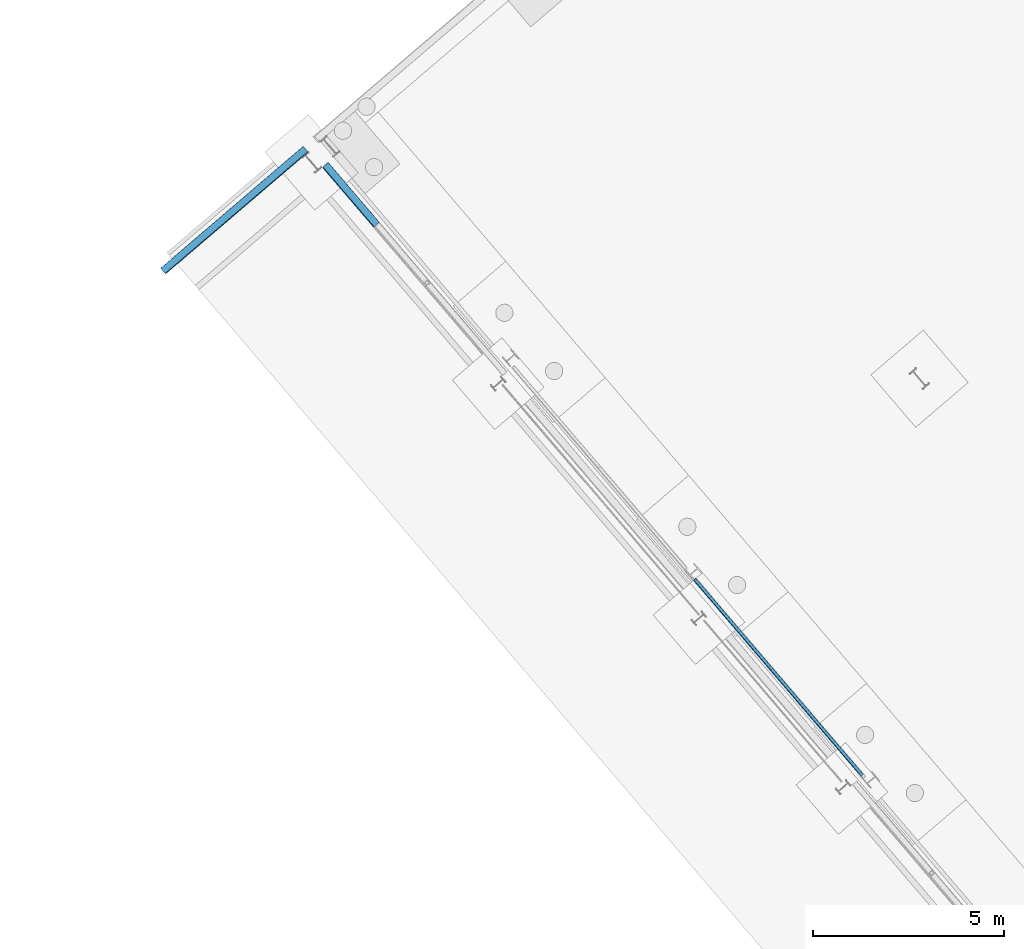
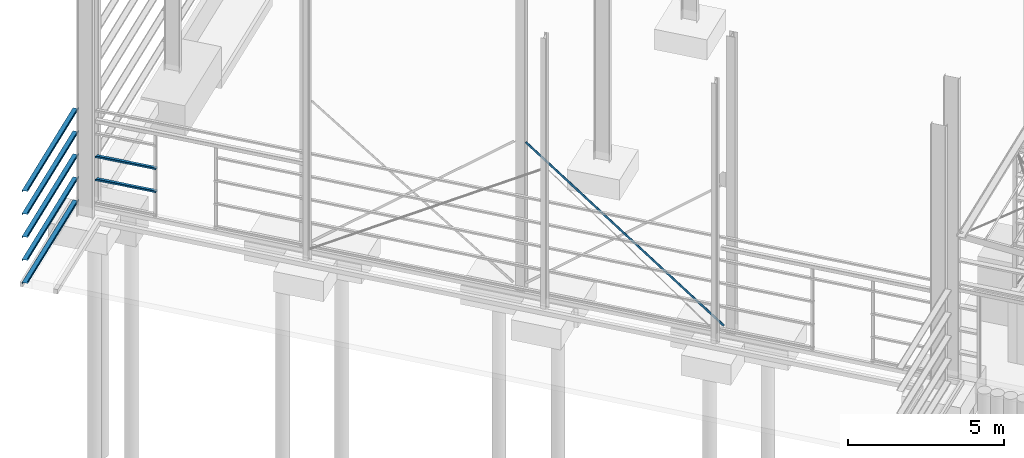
# One storey, part 13 of 41: 8 beams.
"""IFC2X3 building model written with IfcOpenShell, lengths in millimetres."""

from ifc_helpers import new_model, entity, si_unit, converted_unit, derived_unit, direction, frame, frame_2d, origin, place, context, subcontext, project, spatial, polyline, circle_curve, parameter, trimmed, segment, composite_curve, outline, extrude, material, type_object, element, save


model = new_model("IFC2X3")

# Units and contexts
model_context = context("Model", 3, precision=0.01, world=origin(), true_north=direction((6.123031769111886e-17, 1.0)))
body_context = subcontext(model_context, "Body", "Model", "MODEL_VIEW")
ifc_project = project(units=[si_unit("LENGTHUNIT", "METRE", prefix="MILLI"), si_unit("AREAUNIT", "SQUARE_METRE"), si_unit("VOLUMEUNIT", "CUBIC_METRE"), converted_unit("PLANEANGLEUNIT", "DEGREE", entity("IfcRatioMeasure", 0.017453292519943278), si_unit("PLANEANGLEUNIT", "RADIAN"), dimensions=[0, 0, 0, 0, 0, 0, 0]), si_unit("MASSUNIT", "GRAM", prefix="KILO"), derived_unit("MASSDENSITYUNIT", [(si_unit("MASSUNIT", "GRAM", prefix="KILO"), 1), (si_unit("LENGTHUNIT", "METRE"), -3)]), derived_unit("MOMENTOFINERTIAUNIT", [(si_unit("LENGTHUNIT", "METRE"), 4)]), si_unit("TIMEUNIT", "SECOND"), si_unit("FREQUENCYUNIT", "HERTZ"), si_unit("THERMODYNAMICTEMPERATUREUNIT", "DEGREE_CELSIUS"), derived_unit("THERMALTRANSMITTANCEUNIT", [(si_unit("MASSUNIT", "GRAM", prefix="KILO"), 1), (si_unit("THERMODYNAMICTEMPERATUREUNIT", "KELVIN"), -1), (si_unit("TIMEUNIT", "SECOND"), -3)]), derived_unit("VOLUMETRICFLOWRATEUNIT", [(si_unit("LENGTHUNIT", "METRE"), 3), (si_unit("TIMEUNIT", "SECOND"), -1)]), derived_unit("MASSFLOWRATEUNIT", [(si_unit("MASSUNIT", "GRAM", prefix="KILO"), 1), (si_unit("TIMEUNIT", "SECOND"), -1)]), derived_unit("ROTATIONALFREQUENCYUNIT", [(si_unit("TIMEUNIT", "SECOND"), -1)]), si_unit("ELECTRICCURRENTUNIT", "AMPERE"), si_unit("ELECTRICVOLTAGEUNIT", "VOLT"), si_unit("POWERUNIT", "WATT"), si_unit("FORCEUNIT", "NEWTON", prefix="KILO"), si_unit("ILLUMINANCEUNIT", "LUX"), si_unit("LUMINOUSFLUXUNIT", "LUMEN"), si_unit("LUMINOUSINTENSITYUNIT", "CANDELA"), derived_unit("USERDEFINED", [(si_unit("MASSUNIT", "GRAM", prefix="KILO"), -1), (si_unit("LENGTHUNIT", "METRE"), -2), (si_unit("TIMEUNIT", "SECOND"), 3), (si_unit("LUMINOUSFLUXUNIT", "LUMEN"), 1)]), derived_unit("SOUNDPOWERUNIT", [(si_unit("MASSUNIT", "GRAM", prefix="KILO"), 1), (si_unit("LENGTHUNIT", "METRE"), 2), (si_unit("TIMEUNIT", "SECOND"), -3)]), derived_unit("LINEARVELOCITYUNIT", [(si_unit("LENGTHUNIT", "METRE"), 1), (si_unit("TIMEUNIT", "SECOND"), -1)]), si_unit("PRESSUREUNIT", "PASCAL"), derived_unit("USERDEFINED", [(si_unit("LENGTHUNIT", "METRE"), -2), (si_unit("MASSUNIT", "GRAM", prefix="KILO"), 1), (si_unit("TIMEUNIT", "SECOND"), -2)]), derived_unit("LINEARFORCEUNIT", [(si_unit("MASSUNIT", "GRAM", prefix="KILO"), 1), (si_unit("LENGTHUNIT", "METRE"), 1), (si_unit("TIMEUNIT", "SECOND"), -2), (si_unit("LENGTHUNIT", "METRE"), -1)]), derived_unit("PLANARFORCEUNIT", [(si_unit("MASSUNIT", "GRAM", prefix="KILO"), 1), (si_unit("LENGTHUNIT", "METRE"), 1), (si_unit("TIMEUNIT", "SECOND"), -2), (si_unit("LENGTHUNIT", "METRE"), -2)])], contexts=[model_context])

# Site, building, storey
site_placement = place(None, frame((962.4174930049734, -6014.433753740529, 0.0), z_axis=(0.0, 0.0, 1.0), x_axis=(0.7601792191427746, 0.649713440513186, 0.0)))
site = spatial("IfcSite", under=ifc_project, at=site_placement, Name="Default", CompositionType="ELEMENT")
building_placement = place(site_placement, origin())
building = spatial("IfcBuilding", under=site, at=building_placement, CompositionType="ELEMENT")
storey_placement = place(building_placement, origin())
storey = spatial("IfcBuildingStorey", under=building, at=storey_placement, Name="Datum", CompositionType="ELEMENT", Elevation=0.0)

# Beams
ifc_material = material(Name="Metal - Steel - 300 MPa")
beam_type_1 = type_object("IfcBeamType", Name="ADSK_AU_EA-Equal Angles (AS 3679_1):90x90x10EA", PredefinedType="NOTDEFINED")
beam_1_placement = place(storey_placement, frame((154449.66020470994, -11244.435616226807, 5858.257195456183), z_axis=(0.0, -0.6399432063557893, 0.7684222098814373), x_axis=(0.0, -0.7684222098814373, -0.6399432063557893)))
element("IfcBeam", 1, at=beam_1_placement, inside=storey, type_object=beam_type_1, material=ifc_material, Name="ADSK_AU_EA-Equal Angles (AS 3679_1):90x90x10EA", ObjectType="ADSK_AU_EA-Equal Angles (AS 3679_1):90x90x10EA", context=body_context, shape_type="SweptSolid", body=[
    extrude(outline(composite_curve([segment(polyline([(-55.77777777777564, -34.22222222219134), (34.222222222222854, -34.22222222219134)]), True, "CONTINUOUS"), segment(polyline([(34.222222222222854, -34.22222222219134), (34.22222222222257, 55.77777777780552)]), True, "CONTINUOUS"), segment(polyline([(34.22222222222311, 55.77777777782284), (29.222222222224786, 55.77777777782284)]), True, "CONTINUOUS"), segment(trimmed(circle_curve(frame_2d((29.222222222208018, 50.77777777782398), x_axis=(0.0, 1.0)), 4.999999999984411), [parameter(0.0)], [parameter(90.0000000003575)], True, "PARAMETER"), True, "CONTINUOUS"), segment(polyline([(24.222222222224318, 50.777777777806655), (24.222222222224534, -16.222222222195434)]), True, "CONTINUOUS"), segment(trimmed(circle_curve(frame_2d((16.222222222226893, -16.22222222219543), x_axis=(1.0, 0.0)), 7.999999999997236), [parameter(269.99999999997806)], [parameter(0.0)], True, "PARAMETER"), False, "CONTINUOUS"), segment(polyline([(16.222222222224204, -24.22222222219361), (-50.777777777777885, -24.222222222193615)]), True, "CONTINUOUS"), segment(trimmed(circle_curve(frame_2d((-50.7777777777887, -29.22222222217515), x_axis=(0.0, 1.0)), 4.999999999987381), [parameter(0.0)], [parameter(90.0000000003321)], True, "PARAMETER"), True, "CONTINUOUS"), segment(polyline([(-55.777777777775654, -29.222222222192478), (-55.77777777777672, -34.22222222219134)]), True, "CONTINUOUS")], self_intersect=False)), frame((258.19999999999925, 8.522222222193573, -55.777777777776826), z_axis=(1.0, 0.0, 0.0), x_axis=(0.0, 0.0, -1.0)), (0.0, 0.0, 1.0), 8761.800000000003),
])
beam_type_2 = type_object("IfcBeamType", Name="ADSK_UK_Light Gauge-Zeds-Purlin:Metsec-202Z14", PredefinedType="NOTDEFINED")
beam_2_placement = place(storey_placement, frame((154043.43877903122, 3650.5219178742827, 3700.0), z_axis=(0.0, 0.0, 1.0), x_axis=(-1.0, 0.0, 0.0)))
element("IfcBeam", 2, at=beam_2_placement, inside=storey, type_object=beam_type_2, material=ifc_material, Name="ADSK_UK_Light Gauge-Zeds-Purlin:Metsec-202Z14", ObjectType="ADSK_UK_Light Gauge-Zeds-Purlin:Metsec-202Z14", context=body_context, shape_type="SweptSolid", body=[
    extrude(outline(composite_curve([segment(polyline([(3.5999999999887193, -101.20000000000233), (58.0, -101.20000000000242)]), True, "CONTINUOUS"), segment(trimmed(circle_curve(frame_2d((58.0, -98.40000000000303), x_axis=(0.0, -1.0)), 2.7999999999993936), [parameter(0.0)], [parameter(90.00000000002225)], True, "PARAMETER"), True, "CONTINUOUS"), segment(polyline([(60.7999999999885, -98.4000000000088), (60.799999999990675, -80.20000000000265)]), True, "CONTINUOUS"), segment(polyline([(60.799999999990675, -80.20000000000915), (59.39999999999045, -80.20000000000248)]), True, "CONTINUOUS"), segment(polyline([(59.39999999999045, -80.20000000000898), (59.399999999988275, -98.40000000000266)]), True, "CONTINUOUS"), segment(trimmed(circle_curve(frame_2d((58.0, -98.40000000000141), x_axis=(1.0, 0.0)), 1.400000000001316), [parameter(270.00000000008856)], [parameter(0.0)], True, "PARAMETER"), False, "CONTINUOUS"), segment(polyline([(58.0, -99.80000000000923), (3.599999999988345, -99.79999999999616)]), True, "CONTINUOUS"), segment(trimmed(circle_curve(frame_2d((3.5999999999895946, -98.39999999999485), x_axis=(0.0, -1.0)), 1.4000000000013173), [parameter(270.00000000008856)], [parameter(0.0)], True, "PARAMETER"), False, "CONTINUOUS"), segment(polyline([(2.199999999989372, -98.40000000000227), (2.2000000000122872, 98.0)]), True, "CONTINUOUS"), segment(trimmed(circle_curve(frame_2d((-0.5999999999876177, 98.0), x_axis=(1.0, 0.0)), 2.7999999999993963), [parameter(0.0)], [parameter(90.00000000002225)], True, "PARAMETER"), True, "CONTINUOUS"), segment(polyline([(-0.5999999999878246, 100.79999999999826), (-60.0, 100.80000000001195)]), True, "CONTINUOUS"), segment(trimmed(circle_curve(frame_2d((-60.0, 98.0), x_axis=(0.0, 1.0)), 2.7999999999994), [parameter(0.0)], [parameter(90.00000000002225)], True, "PARAMETER"), True, "CONTINUOUS"), segment(polyline([(-62.7999999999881, 98.0), (-62.799999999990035, 81.80000000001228)]), True, "CONTINUOUS"), segment(polyline([(-62.799999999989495, 81.80000000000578), (-61.39999999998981, 81.8000000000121)]), True, "CONTINUOUS"), segment(polyline([(-61.39999999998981, 81.80000000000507), (-61.39999999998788, 98.0)]), True, "CONTINUOUS"), segment(trimmed(circle_curve(frame_2d((-60.0, 98.0), x_axis=(-1.0, 0.0)), 1.4000000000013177), [parameter(270.00000000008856)], [parameter(0.0)], True, "PARAMETER"), False, "CONTINUOUS"), segment(polyline([(-60.0, 99.40000000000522), (-0.5999999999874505, 99.40000000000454)]), True, "CONTINUOUS"), segment(trimmed(circle_curve(frame_2d((-0.5999999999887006, 98.0), x_axis=(0.0, 1.0)), 1.4000000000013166), [parameter(270.00000000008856)], [parameter(0.0)], True, "PARAMETER"), False, "CONTINUOUS"), segment(polyline([(0.8000000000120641, 98.0), (0.7999999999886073, -98.39999999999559)]), True, "CONTINUOUS"), segment(trimmed(circle_curve(frame_2d((3.599999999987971, -98.39999999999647), x_axis=(-1.0, 0.0)), 2.7999999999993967), [parameter(0.0)], [parameter(90.00000000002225)], True, "PARAMETER"), True, "CONTINUOUS")], self_intersect=False)), frame((-1.0, -100.80000000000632, 0.7000000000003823), z_axis=(1.0, 0.0, 0.0), x_axis=(0.0, 0.0, -1.0)), (0.0, 0.0, 1.0), 4900.999999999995),
])
beam_3_placement = place(storey_placement, frame((154043.43877903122, 3650.5219178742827, 2800.0), z_axis=(0.0, 0.0, 1.0), x_axis=(-1.0, 0.0, 0.0)))
element("IfcBeam", 3, at=beam_3_placement, inside=storey, type_object=beam_type_2, material=ifc_material, Name="ADSK_UK_Light Gauge-Zeds-Purlin:Metsec-202Z14", ObjectType="ADSK_UK_Light Gauge-Zeds-Purlin:Metsec-202Z14", context=body_context, shape_type="SweptSolid", body=[
    extrude(outline(composite_curve([segment(polyline([(3.5999999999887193, -101.20000000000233), (58.0, -101.20000000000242)]), True, "CONTINUOUS"), segment(trimmed(circle_curve(frame_2d((58.0, -98.40000000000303), x_axis=(0.0, -1.0)), 2.7999999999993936), [parameter(0.0)], [parameter(90.00000000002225)], True, "PARAMETER"), True, "CONTINUOUS"), segment(polyline([(60.7999999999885, -98.4000000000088), (60.799999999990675, -80.20000000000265)]), True, "CONTINUOUS"), segment(polyline([(60.799999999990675, -80.20000000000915), (59.39999999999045, -80.20000000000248)]), True, "CONTINUOUS"), segment(polyline([(59.39999999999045, -80.20000000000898), (59.399999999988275, -98.40000000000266)]), True, "CONTINUOUS"), segment(trimmed(circle_curve(frame_2d((58.0, -98.40000000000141), x_axis=(1.0, 0.0)), 1.400000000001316), [parameter(270.00000000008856)], [parameter(0.0)], True, "PARAMETER"), False, "CONTINUOUS"), segment(polyline([(58.0, -99.80000000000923), (3.599999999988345, -99.79999999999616)]), True, "CONTINUOUS"), segment(trimmed(circle_curve(frame_2d((3.5999999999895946, -98.39999999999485), x_axis=(0.0, -1.0)), 1.4000000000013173), [parameter(270.00000000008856)], [parameter(0.0)], True, "PARAMETER"), False, "CONTINUOUS"), segment(polyline([(2.199999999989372, -98.40000000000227), (2.2000000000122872, 98.0)]), True, "CONTINUOUS"), segment(trimmed(circle_curve(frame_2d((-0.5999999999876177, 98.0), x_axis=(1.0, 0.0)), 2.7999999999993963), [parameter(0.0)], [parameter(90.00000000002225)], True, "PARAMETER"), True, "CONTINUOUS"), segment(polyline([(-0.5999999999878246, 100.79999999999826), (-60.0, 100.80000000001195)]), True, "CONTINUOUS"), segment(trimmed(circle_curve(frame_2d((-60.0, 98.0), x_axis=(0.0, 1.0)), 2.7999999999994), [parameter(0.0)], [parameter(90.00000000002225)], True, "PARAMETER"), True, "CONTINUOUS"), segment(polyline([(-62.7999999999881, 98.0), (-62.799999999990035, 81.80000000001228)]), True, "CONTINUOUS"), segment(polyline([(-62.799999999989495, 81.80000000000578), (-61.39999999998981, 81.8000000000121)]), True, "CONTINUOUS"), segment(polyline([(-61.39999999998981, 81.80000000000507), (-61.39999999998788, 98.0)]), True, "CONTINUOUS"), segment(trimmed(circle_curve(frame_2d((-60.0, 98.0), x_axis=(-1.0, 0.0)), 1.4000000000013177), [parameter(270.00000000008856)], [parameter(0.0)], True, "PARAMETER"), False, "CONTINUOUS"), segment(polyline([(-60.0, 99.40000000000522), (-0.5999999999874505, 99.40000000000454)]), True, "CONTINUOUS"), segment(trimmed(circle_curve(frame_2d((-0.5999999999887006, 98.0), x_axis=(0.0, 1.0)), 1.4000000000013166), [parameter(270.00000000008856)], [parameter(0.0)], True, "PARAMETER"), False, "CONTINUOUS"), segment(polyline([(0.8000000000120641, 98.0), (0.7999999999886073, -98.39999999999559)]), True, "CONTINUOUS"), segment(trimmed(circle_curve(frame_2d((3.599999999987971, -98.39999999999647), x_axis=(-1.0, 0.0)), 2.7999999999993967), [parameter(0.0)], [parameter(90.00000000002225)], True, "PARAMETER"), True, "CONTINUOUS")], self_intersect=False)), frame((-1.0, -100.80000000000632, 0.7000000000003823), z_axis=(1.0, 0.0, 0.0), x_axis=(0.0, 0.0, -1.0)), (0.0, 0.0, 1.0), 4900.999999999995),
])
beam_4_placement = place(storey_placement, frame((154043.43877903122, 3650.5219178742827, 1900.0), z_axis=(0.0, 0.0, 1.0), x_axis=(-1.0, 0.0, 0.0)))
element("IfcBeam", 4, at=beam_4_placement, inside=storey, type_object=beam_type_2, material=ifc_material, Name="ADSK_UK_Light Gauge-Zeds-Purlin:Metsec-202Z14", ObjectType="ADSK_UK_Light Gauge-Zeds-Purlin:Metsec-202Z14", context=body_context, shape_type="SweptSolid", body=[
    extrude(outline(composite_curve([segment(polyline([(3.5999999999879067, -101.20000000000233), (58.0, -101.20000000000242)]), True, "CONTINUOUS"), segment(trimmed(circle_curve(frame_2d((58.0, -98.40000000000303), x_axis=(0.0, -1.0)), 2.799999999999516), [parameter(0.0)], [parameter(90.00000000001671)], True, "PARAMETER"), True, "CONTINUOUS"), segment(polyline([(60.79999999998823, -98.4000000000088), (60.799999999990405, -80.20000000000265)]), True, "CONTINUOUS"), segment(polyline([(60.799999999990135, -80.20000000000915), (59.39999999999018, -80.20000000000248)]), True, "CONTINUOUS"), segment(polyline([(59.39999999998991, -80.20000000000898), (59.399999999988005, -98.40000000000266)]), True, "CONTINUOUS"), segment(trimmed(circle_curve(frame_2d((58.0, -98.40000000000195), x_axis=(1.0, 0.0)), 1.400000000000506), [parameter(270.0000000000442)], [parameter(0.0)], True, "PARAMETER"), False, "CONTINUOUS"), segment(polyline([(58.0, -99.80000000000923), (3.599999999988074, -99.79999999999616)]), True, "CONTINUOUS"), segment(trimmed(circle_curve(frame_2d((3.599999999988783, -98.39999999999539), x_axis=(0.0, -1.0)), 1.4000000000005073), [parameter(270.0000000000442)], [parameter(0.0)], True, "PARAMETER"), False, "CONTINUOUS"), segment(polyline([(2.199999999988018, -98.40000000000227), (2.200000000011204, 98.0)]), True, "CONTINUOUS"), segment(trimmed(circle_curve(frame_2d((-0.5999999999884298, 98.0), x_axis=(1.0, 0.0)), 2.799999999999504), [parameter(0.0)], [parameter(90.00000000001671)], True, "PARAMETER"), True, "CONTINUOUS"), segment(polyline([(-0.5999999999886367, 100.79999999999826), (-60.0, 100.80000000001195)]), True, "CONTINUOUS"), segment(trimmed(circle_curve(frame_2d((-60.0, 98.0), x_axis=(0.0, 1.0)), 2.7999999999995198), [parameter(0.0)], [parameter(90.00000000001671)], True, "PARAMETER"), True, "CONTINUOUS"), segment(polyline([(-62.79999999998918, 98.0), (-62.799999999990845, 81.80000000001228)]), True, "CONTINUOUS"), segment(polyline([(-62.799999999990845, 81.80000000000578), (-61.39999999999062, 81.8000000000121)]), True, "CONTINUOUS"), segment(polyline([(-61.39999999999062, 81.80000000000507), (-61.39999999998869, 98.0)]), True, "CONTINUOUS"), segment(trimmed(circle_curve(frame_2d((-60.0, 98.0), x_axis=(-1.0, 0.0)), 1.4000000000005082), [parameter(270.0000000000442)], [parameter(0.0)], True, "PARAMETER"), False, "CONTINUOUS"), segment(polyline([(-60.0, 99.40000000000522), (-0.5999999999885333, 99.40000000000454)]), True, "CONTINUOUS"), segment(trimmed(circle_curve(frame_2d((-0.599999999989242, 98.0), x_axis=(0.0, 1.0)), 1.4000000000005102), [parameter(270.0000000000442)], [parameter(0.0)], True, "PARAMETER"), False, "CONTINUOUS"), segment(polyline([(0.8000000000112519, 98.0), (0.7999999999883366, -98.39999999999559)]), True, "CONTINUOUS"), segment(trimmed(circle_curve(frame_2d((3.599999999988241, -98.39999999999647), x_axis=(-1.0, 0.0)), 2.7999999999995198), [parameter(0.0)], [parameter(90.00000000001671)], True, "PARAMETER"), True, "CONTINUOUS")], self_intersect=False)), frame((-1.0, -100.80000000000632, 0.6999999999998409), z_axis=(1.0, 0.0, 0.0), x_axis=(0.0, 0.0, -1.0)), (0.0, 0.0, 1.0), 4900.999999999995),
])
beam_5_placement = place(storey_placement, frame((154043.43877903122, 3650.5219178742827, 1000.0), z_axis=(0.0, 0.0, 1.0), x_axis=(-1.0, 0.0, 0.0)))
element("IfcBeam", 5, at=beam_5_placement, inside=storey, type_object=beam_type_2, material=ifc_material, Name="ADSK_UK_Light Gauge-Zeds-Purlin:Metsec-202Z14", ObjectType="ADSK_UK_Light Gauge-Zeds-Purlin:Metsec-202Z14", context=body_context, shape_type="SweptSolid", body=[
    extrude(outline(composite_curve([segment(polyline([(3.5999999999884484, -101.20000000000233), (58.0, -101.20000000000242)]), True, "CONTINUOUS"), segment(trimmed(circle_curve(frame_2d((58.0, -98.40000000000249), x_axis=(0.0, -1.0)), 2.7999999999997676), [parameter(0.0)], [parameter(90.00000000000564)], True, "PARAMETER"), True, "CONTINUOUS"), segment(polyline([(60.799999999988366, -98.4000000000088), (60.79999999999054, -80.20000000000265)]), True, "CONTINUOUS"), segment(polyline([(60.79999999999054, -80.20000000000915), (59.399999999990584, -80.20000000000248)]), True, "CONTINUOUS"), segment(polyline([(59.399999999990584, -80.20000000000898), (59.39999999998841, -98.40000000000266)]), True, "CONTINUOUS"), segment(trimmed(circle_curve(frame_2d((58.0, -98.40000000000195), x_axis=(1.0, 0.0)), 1.4000000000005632), [parameter(270.0000000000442)], [parameter(0.0)], True, "PARAMETER"), False, "CONTINUOUS"), segment(polyline([(58.0, -99.80000000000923), (3.599999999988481, -99.79999999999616)]), True, "CONTINUOUS"), segment(trimmed(circle_curve(frame_2d((3.5999999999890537, -98.39999999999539), x_axis=(0.0, -1.0)), 1.400000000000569), [parameter(270.0000000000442)], [parameter(0.0)], True, "PARAMETER"), False, "CONTINUOUS"), segment(polyline([(2.199999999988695, -98.40000000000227), (2.2000000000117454, 98.0)]), True, "CONTINUOUS"), segment(trimmed(circle_curve(frame_2d((-0.5999999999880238, 98.0), x_axis=(1.0, 0.0)), 2.7999999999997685), [parameter(0.0)], [parameter(90.00000000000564)], True, "PARAMETER"), True, "CONTINUOUS"), segment(polyline([(-0.5999999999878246, 100.79999999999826), (-60.0, 100.80000000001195)]), True, "CONTINUOUS"), segment(trimmed(circle_curve(frame_2d((-60.0, 98.0), x_axis=(0.0, 1.0)), 2.799999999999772), [parameter(0.0)], [parameter(90.00000000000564)], True, "PARAMETER"), True, "CONTINUOUS"), segment(polyline([(-62.79999999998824, 98.0), (-62.79999999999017, 81.80000000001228)]), True, "CONTINUOUS"), segment(polyline([(-62.79999999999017, 81.80000000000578), (-61.399999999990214, 81.8000000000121)]), True, "CONTINUOUS"), segment(polyline([(-61.399999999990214, 81.80000000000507), (-61.39999999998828, 98.0)]), True, "CONTINUOUS"), segment(trimmed(circle_curve(frame_2d((-60.0, 98.0), x_axis=(-1.0, 0.0)), 1.4000000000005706), [parameter(270.0000000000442)], [parameter(0.0)], True, "PARAMETER"), False, "CONTINUOUS"), segment(polyline([(-60.0, 99.40000000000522), (-0.5999999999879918, 99.40000000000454)]), True, "CONTINUOUS"), segment(trimmed(circle_curve(frame_2d((-0.5999999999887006, 98.0), x_axis=(0.0, 1.0)), 1.4000000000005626), [parameter(270.0000000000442)], [parameter(0.0)], True, "PARAMETER"), False, "CONTINUOUS"), segment(polyline([(0.8000000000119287, 98.0), (0.7999999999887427, -98.39999999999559)]), True, "CONTINUOUS"), segment(trimmed(circle_curve(frame_2d((3.599999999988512, -98.39999999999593), x_axis=(-1.0, 0.0)), 2.799999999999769), [parameter(0.0)], [parameter(90.00000000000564)], True, "PARAMETER"), True, "CONTINUOUS")], self_intersect=False)), frame((-1.0, -100.80000000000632, 0.7000000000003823), z_axis=(1.0, 0.0, 0.0), x_axis=(0.0, 0.0, -1.0)), (0.0, 0.0, 1.0), 4900.999999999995),
])
beam_6_placement = place(storey_placement, frame((154043.43877903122, 3650.5219178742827, 100.0), z_axis=(0.0, 0.0, 1.0), x_axis=(-1.0, 0.0, 0.0)))
element("IfcBeam", 6, at=beam_6_placement, inside=storey, type_object=beam_type_2, material=ifc_material, Name="ADSK_UK_Light Gauge-Zeds-Purlin:Metsec-202Z14", ObjectType="ADSK_UK_Light Gauge-Zeds-Purlin:Metsec-202Z14", context=body_context, shape_type="SweptSolid", body=[
    extrude(outline(composite_curve([segment(polyline([(3.599999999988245, -101.20000000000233), (58.0, -101.20000000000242)]), True, "CONTINUOUS"), segment(trimmed(circle_curve(frame_2d((58.0, -98.40000000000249), x_axis=(0.0, -1.0)), 2.7999999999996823), [parameter(0.0)], [parameter(90.00000000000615)], True, "PARAMETER"), True, "CONTINUOUS"), segment(polyline([(60.79999999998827, -98.4000000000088), (60.79999999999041, -80.20000000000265)]), True, "CONTINUOUS"), segment(polyline([(60.79999999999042, -80.20000000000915), (59.39999999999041, -80.20000000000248)]), True, "CONTINUOUS"), segment(polyline([(59.39999999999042, -80.20000000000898), (59.39999999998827, -98.40000000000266)]), True, "CONTINUOUS"), segment(trimmed(circle_curve(frame_2d((58.0, -98.40000000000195), x_axis=(1.0, 0.0)), 1.400000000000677), [parameter(270.00000000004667)], [parameter(0.0)], True, "PARAMETER"), False, "CONTINUOUS"), segment(polyline([(58.0, -99.80000000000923), (3.5999999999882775, -99.79999999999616)]), True, "CONTINUOUS"), segment(trimmed(circle_curve(frame_2d((3.59999999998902, -98.39999999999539), x_axis=(0.0, -1.0)), 1.4000000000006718), [parameter(270.00000000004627)], [parameter(0.0)], True, "PARAMETER"), False, "CONTINUOUS"), segment(polyline([(2.1999999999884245, -98.40000000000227), (2.200000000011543, 98.0)]), True, "CONTINUOUS"), segment(trimmed(circle_curve(frame_2d((-0.5999999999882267, 98.0), x_axis=(1.0, 0.0)), 2.79999999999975), [parameter(0.0)], [parameter(90.00000000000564)], True, "PARAMETER"), True, "CONTINUOUS"), segment(polyline([(-0.5999999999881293, 100.79999999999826), (-60.0, 100.80000000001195)]), True, "CONTINUOUS"), segment(trimmed(circle_curve(frame_2d((-60.0, 98.0), x_axis=(0.0, 1.0)), 2.799999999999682), [parameter(0.0)], [parameter(90.00000000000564)], True, "PARAMETER"), True, "CONTINUOUS"), segment(polyline([(-62.79999999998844, 98.0), (-62.79999999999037, 81.80000000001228)]), True, "CONTINUOUS"), segment(polyline([(-62.799999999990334, 81.80000000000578), (-61.39999999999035, 81.8000000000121)]), True, "CONTINUOUS"), segment(polyline([(-61.39999999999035, 81.80000000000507), (-61.39999999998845, 98.0)]), True, "CONTINUOUS"), segment(trimmed(circle_curve(frame_2d((-60.0, 98.0), x_axis=(-1.0, 0.0)), 1.400000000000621), [parameter(270.0000000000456)], [parameter(0.0)], True, "PARAMETER"), False, "CONTINUOUS"), segment(polyline([(-60.0, 99.40000000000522), (-0.5999999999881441, 99.40000000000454)]), True, "CONTINUOUS"), segment(trimmed(circle_curve(frame_2d((-0.5999999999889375, 98.0), x_axis=(0.0, 1.0)), 1.400000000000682), [parameter(270.0000000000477)], [parameter(0.0)], True, "PARAMETER"), False, "CONTINUOUS"), segment(polyline([(0.8000000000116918, 98.0), (0.7999999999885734, -98.39999999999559)]), True, "CONTINUOUS"), segment(trimmed(circle_curve(frame_2d((3.599999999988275, -98.39999999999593), x_axis=(-1.0, 0.0)), 2.7999999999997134), [parameter(0.0)], [parameter(90.00000000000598)], True, "PARAMETER"), True, "CONTINUOUS")], self_intersect=False)), frame((-1.0, -100.80000000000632, 0.7000000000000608), z_axis=(1.0, 0.0, 0.0), x_axis=(0.0, 0.0, -1.0)), (0.0, 0.0, 1.0), 4900.999999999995),
])
beam_7_placement = place(storey_placement, frame((154066.46020470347, 1172.5719178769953, 1900.0), z_axis=(0.0, 0.0, 1.0), x_axis=(0.0, 1.0, 0.0)))
element("IfcBeam", 7, at=beam_7_placement, inside=storey, type_object=beam_type_2, material=ifc_material, Name="ADSK_UK_Light Gauge-Zeds-Purlin:Metsec-202Z14", ObjectType="ADSK_UK_Light Gauge-Zeds-Purlin:Metsec-202Z14", context=body_context, shape_type="SweptSolid", body=[
    extrude(outline(composite_curve([segment(polyline([(3.6000000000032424, -101.19999999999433), (58.0, -101.19999999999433)]), True, "CONTINUOUS"), segment(trimmed(circle_curve(frame_2d((58.0, -98.39999999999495), x_axis=(0.0, -1.0)), 2.8000000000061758), [parameter(0.0)], [parameter(89.99999999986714)], True, "PARAMETER"), True, "CONTINUOUS"), segment(polyline([(60.80000000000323, -98.40000000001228), (60.799999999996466, -80.19999999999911)]), True, "CONTINUOUS"), segment(polyline([(60.80000000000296, -80.19999999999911), (59.39999999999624, -80.19999999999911)]), True, "CONTINUOUS"), segment(polyline([(59.40000000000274, -80.19999999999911), (59.39999999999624, -98.39999999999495)]), True, "CONTINUOUS"), segment(trimmed(circle_curve(frame_2d((58.0, -98.39999999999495), x_axis=(1.0, 0.0)), 1.3999999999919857), [parameter(269.9999999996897)], [parameter(0.0)], True, "PARAMETER"), False, "CONTINUOUS"), segment(polyline([(58.0, -99.79999999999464), (3.5999999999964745, -99.79999999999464)]), True, "CONTINUOUS"), segment(trimmed(circle_curve(frame_2d((3.5999999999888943, -98.39999999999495), x_axis=(0.0, -1.0)), 1.3999999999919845), [parameter(269.9999999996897)], [parameter(0.0)], True, "PARAMETER"), False, "CONTINUOUS"), segment(polyline([(2.200000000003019, -98.39999999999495), (2.1999999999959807, 98.0)]), True, "CONTINUOUS"), segment(trimmed(circle_curve(frame_2d((-0.6000000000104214, 98.0), x_axis=(1.0, 0.0)), 2.8000000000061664), [parameter(0.0)], [parameter(89.99999999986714)], True, "PARAMETER"), True, "CONTINUOUS"), segment(polyline([(-0.5999999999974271, 100.80000000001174), (-60.0, 100.80000000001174)]), True, "CONTINUOUS"), segment(trimmed(circle_curve(frame_2d((-60.0, 98.0), x_axis=(0.0, 1.0)), 2.800000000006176), [parameter(0.0)], [parameter(89.99999999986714)], True, "PARAMETER"), True, "CONTINUOUS"), segment(polyline([(-62.79999999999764, 98.0), (-62.80000000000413, 81.80000000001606)]), True, "CONTINUOUS"), segment(polyline([(-62.79999999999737, 81.80000000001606), (-61.40000000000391, 81.80000000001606)]), True, "CONTINUOUS"), segment(polyline([(-61.39999999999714, 81.79999999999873), (-61.40000000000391, 98.0)]), True, "CONTINUOUS"), segment(trimmed(circle_curve(frame_2d((-60.0, 98.0), x_axis=(-1.0, 0.0)), 1.3999999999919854), [parameter(269.9999999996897)], [parameter(0.0)], True, "PARAMETER"), False, "CONTINUOUS"), segment(polyline([(-60.0, 99.40000000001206), (-0.6000000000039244, 99.40000000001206)]), True, "CONTINUOUS"), segment(trimmed(circle_curve(frame_2d((-0.5999999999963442, 98.0), x_axis=(0.0, 1.0)), 1.399999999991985), [parameter(269.9999999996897)], [parameter(0.0)], True, "PARAMETER"), False, "CONTINUOUS"), segment(polyline([(0.800000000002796, 98.0), (0.7999999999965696, -98.39999999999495)]), True, "CONTINUOUS"), segment(trimmed(circle_curve(frame_2d((3.6000000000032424, -98.39999999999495), x_axis=(-1.0, 0.0)), 2.8000000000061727), [parameter(0.0)], [parameter(89.99999999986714)], True, "PARAMETER"), True, "CONTINUOUS")], self_intersect=False)), frame((-121.80547755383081, -100.80000000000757, 0.699999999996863), z_axis=(1.0, 0.0, 0.0), x_axis=(0.0, 0.0, -1.0)), (0.0, 0.0, 1.0), 2053.8054775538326),
])
beam_8_placement = place(storey_placement, frame((154066.46020470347, 1172.571917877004, 1000.0), z_axis=(0.0, 0.0, 1.0), x_axis=(0.0, 1.0, 0.0)))
element("IfcBeam", 8, at=beam_8_placement, inside=storey, type_object=beam_type_2, material=ifc_material, Name="ADSK_UK_Light Gauge-Zeds-Purlin:Metsec-202Z14", ObjectType="ADSK_UK_Light Gauge-Zeds-Purlin:Metsec-202Z14", context=body_context, shape_type="SweptSolid", body=[
    extrude(outline(composite_curve([segment(polyline([(3.6000000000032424, -101.19999999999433), (58.0, -101.19999999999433)]), True, "CONTINUOUS"), segment(trimmed(circle_curve(frame_2d((58.0, -98.39999999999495), x_axis=(0.0, -1.0)), 2.800000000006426), [parameter(0.0)], [parameter(89.99999999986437)], True, "PARAMETER"), True, "CONTINUOUS"), segment(polyline([(60.800000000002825, -98.40000000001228), (60.799999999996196, -80.19999999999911)]), True, "CONTINUOUS"), segment(polyline([(60.800000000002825, -80.19999999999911), (59.39999999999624, -80.19999999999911)]), True, "CONTINUOUS"), segment(polyline([(59.400000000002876, -80.19999999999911), (59.39999999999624, -98.39999999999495)]), True, "CONTINUOUS"), segment(trimmed(circle_curve(frame_2d((58.0, -98.39999999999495), x_axis=(1.0, 0.0)), 1.399999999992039), [parameter(269.9999999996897)], [parameter(0.0)], True, "PARAMETER"), False, "CONTINUOUS"), segment(polyline([(58.0, -99.79999999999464), (3.5999999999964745, -99.79999999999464)]), True, "CONTINUOUS"), segment(trimmed(circle_curve(frame_2d((3.599999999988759, -98.39999999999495), x_axis=(0.0, -1.0)), 1.399999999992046), [parameter(269.9999999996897)], [parameter(0.0)], True, "PARAMETER"), False, "CONTINUOUS"), segment(polyline([(2.2000000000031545, -98.39999999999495), (2.1999999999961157, 98.0)]), True, "CONTINUOUS"), segment(trimmed(circle_curve(frame_2d((-0.6000000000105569, 98.0), x_axis=(1.0, 0.0)), 2.8000000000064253), [parameter(0.0)], [parameter(89.99999999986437)], True, "PARAMETER"), True, "CONTINUOUS"), segment(polyline([(-0.5999999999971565, 100.80000000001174), (-60.0, 100.80000000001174)]), True, "CONTINUOUS"), segment(trimmed(circle_curve(frame_2d((-60.0, 98.0), x_axis=(0.0, 1.0)), 2.8000000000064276), [parameter(0.0)], [parameter(89.99999999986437)], True, "PARAMETER"), True, "CONTINUOUS"), segment(polyline([(-62.799999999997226, 98.0), (-62.80000000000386, 81.80000000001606)]), True, "CONTINUOUS"), segment(polyline([(-62.799999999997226, 81.80000000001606), (-61.40000000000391, 81.80000000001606)]), True, "CONTINUOUS"), segment(polyline([(-61.39999999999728, 81.79999999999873), (-61.40000000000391, 98.0)]), True, "CONTINUOUS"), segment(trimmed(circle_curve(frame_2d((-60.0, 98.0), x_axis=(-1.0, 0.0)), 1.3999999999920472), [parameter(269.9999999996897)], [parameter(0.0)], True, "PARAMETER"), False, "CONTINUOUS"), segment(polyline([(-60.0, 99.40000000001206), (-0.600000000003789, 99.40000000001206)]), True, "CONTINUOUS"), segment(trimmed(circle_curve(frame_2d((-0.599999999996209, 98.0), x_axis=(0.0, 1.0)), 1.399999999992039), [parameter(269.9999999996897)], [parameter(0.0)], True, "PARAMETER"), False, "CONTINUOUS"), segment(polyline([(0.8000000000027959, 98.0), (0.7999999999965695, -98.39999999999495)]), True, "CONTINUOUS"), segment(trimmed(circle_curve(frame_2d((3.6000000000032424, -98.39999999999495), x_axis=(-1.0, 0.0)), 2.800000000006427), [parameter(0.0)], [parameter(89.99999999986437)], True, "PARAMETER"), True, "CONTINUOUS")], self_intersect=False)), frame((-121.80547755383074, -100.80000000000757, 0.6999999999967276), z_axis=(1.0, 0.0, 0.0), x_axis=(0.0, 0.0, -1.0)), (0.0, 0.0, 1.0), 2053.8054775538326),
])

save(model, "model.ifc")
